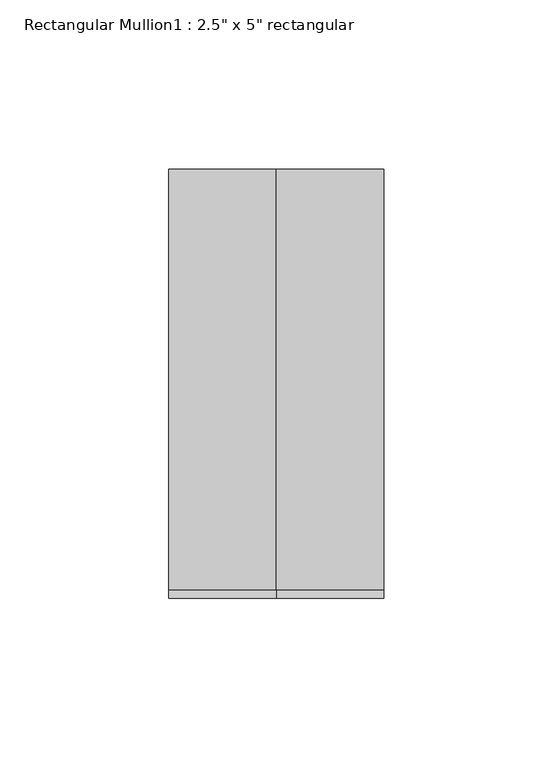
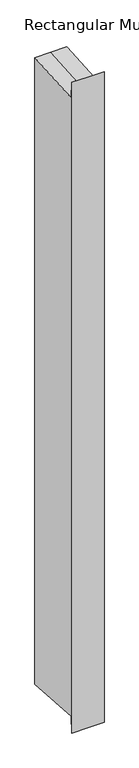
"""IFC4 building model written with IfcOpenShell, lengths in millimetres: member geometry."""

from ifc_helpers import new_model, si_unit, origin, place, context, project, spatial, faceted_brep, source, transform, mapped, element, save


def member_d66ac510(model_context):
    return source(origin(), model_context, "Body", "Brep", [
        faceted_brep([(-31.75, 63.5, 4.4114583), (0.0, 63.5, 4.4114583), (31.75, 63.5, 4.4114583), (31.75, 63.5, -1307.1798222), (0.0, 63.5, -1307.1798222), (-31.75, 63.5, -1307.1798222), (-31.75, -63.5, 29.5074223), (-31.75, -61.1020145, -4.4004678), (-31.75, -61.1020145, -1298.3678961), (-31.75, -63.5, -1332.2757861), (31.75, -63.5, 29.5074223), (0.0, -63.5, 29.5074223), (0.0, -63.5, -1332.2757861), (31.75, -63.5, -1332.2757861), (31.75, -61.1020145, -4.4004678), (31.75, -61.1020145, -1298.3678961), (0.0, -61.1020145, -4.4004678), (0.0, -61.1020145, -1298.3678961)], [[[0, 1, 2, 3, 4, 5]], [[6, 7, 0, 5, 8, 9]], [[10, 11, 6, 9, 12, 13]], [[2, 14, 10, 13, 15, 3]], [[2, 1, 16, 14]], [[1, 0, 7, 16]], [[7, 6, 11, 16]], [[11, 10, 14, 16]], [[3, 15, 17, 4]], [[15, 13, 12, 17]], [[12, 9, 8, 17]], [[8, 5, 4, 17]]]),
    ])


if __name__ == "__main__":
    model = new_model("IFC4")
    model_context = context("Model", 3, world=origin())
    ifc_project = project(units=[si_unit("LENGTHUNIT", "METRE", prefix="MILLI")], contexts=[model_context])
    site = spatial("IfcSite", under=ifc_project)
    building = spatial("IfcBuilding", under=site)
    placement = place(None, origin())
    member_shape = member_d66ac510(model_context)
    element("IfcMember", 1, ObjectType="Rectangular Mullion1 : 2.5\" x 5\" rectangular", at=placement, inside=building, context=model_context, shape_type="MappedRepresentation", body=[
        mapped(member_shape, transform((0.0, 0.0, 0.0), x_axis=(1.0, 0.0, 0.0), y_axis=(0.0, 1.0, 0.0), z_axis=(0.0, 0.0, 1.0))),
    ])
    save(model, "model.ifc")
